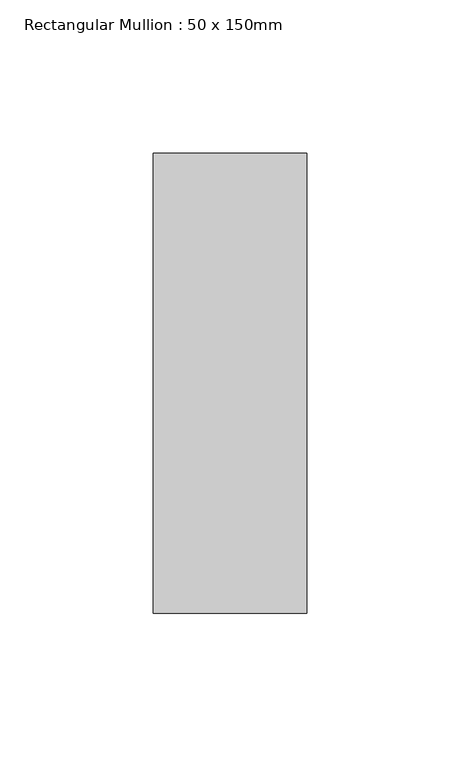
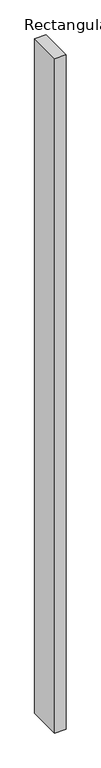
"""IFC4 building model written with IfcOpenShell, lengths in millimetres: member geometry, Rectangular Mullion : 50 x 150mm."""

from ifc_helpers import new_model, si_unit, frame, origin, place, context, project, spatial, polyline, outline, extrude, source, transform, mapped, element, save


def rectangular_mullion_50_x_150mm_9374ec4e(model_context):
    return source(origin(), model_context, "Body", "SweptSolid", [
        extrude(outline(polyline([(25.0, 75.0), (25.0, -75.0), (-25.0, -75.0), (-25.0, 75.0), (25.0, 75.0)])), frame((0.0, 0.0, -3086.0387937), z_axis=(0.0, 0.0, 1.0), x_axis=(1.0, 0.0, 0.0)), (0.0, 0.0, 1.0), 3086.0387937),
    ])


if __name__ == "__main__":
    model = new_model("IFC4")
    model_context = context("Model", 3, world=origin())
    ifc_project = project(units=[si_unit("LENGTHUNIT", "METRE", prefix="MILLI")], contexts=[model_context])
    site = spatial("IfcSite", under=ifc_project)
    building = spatial("IfcBuilding", under=site)
    placement = place(None, origin())
    rectangular_mullion_50_x_150mm_shape = rectangular_mullion_50_x_150mm_9374ec4e(model_context)
    element("IfcMember", 1, ObjectType="Rectangular Mullion : 50 x 150mm", at=placement, inside=building, context=model_context, shape_type="MappedRepresentation", body=[
        mapped(rectangular_mullion_50_x_150mm_shape, transform((0.0, 0.0, 0.0), x_axis=(1.0, 0.0, 0.0), y_axis=(0.0, 1.0, 0.0), z_axis=(0.0, 0.0, 1.0))),
    ])
    save(model, "model.ifc")
